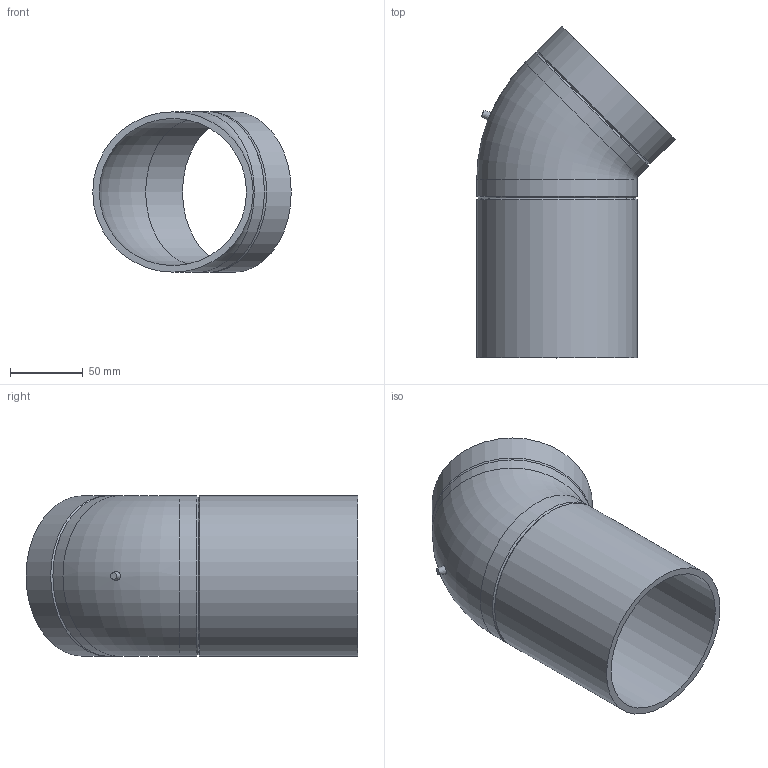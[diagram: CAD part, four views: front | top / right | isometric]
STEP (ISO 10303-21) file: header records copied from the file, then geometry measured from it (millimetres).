
FILE_DESCRIPTION(/* description */ (''),/* implementation_level */ '2;1');
FILE_NAME(/* name */ 'Z:\Geberit\Export\NewStep\367046.stp',/* time_stamp */ '2014-04-02T07:55:24+02:00',/* author */ ('bruh'),/* organization */ (''),/* preprocessor_version */ 'ST-DEVELOPER v15.2',/* originating_system */ 'Autodesk Inventor 2014',/* authorisation */ '');
FILE_SCHEMA (('AUTOMOTIVE_DESIGN { 1 0 10303 214 3 1 1 }'));
Length unit declared in the file: millimetre
Products named in the file (1): 367046
Bounding box: 136.66 x 228.46 x 110.4 mm (x, y, z)
Volume: 307381.5 mm3; surface area: 139728.8 mm2
Topology: 1 solids, 1 shells, 16 faces, 34 edges, 20 vertices
Faces by surface type: cylinder 6, cone 5, plane 3, torus 2
Full cylindrical faces by diameter (mm): 101.34 x2, 110.4 x4
Entity records: 401 total; most frequent: CARTESIAN_POINT 88, DIRECTION 64, EDGE_LOOP 32, ORIENTED_EDGE 32, AXIS2_PLACEMENT_3D 32, FACE_BOUND 18, STYLED_ITEM 17, VERTEX_POINT 16
